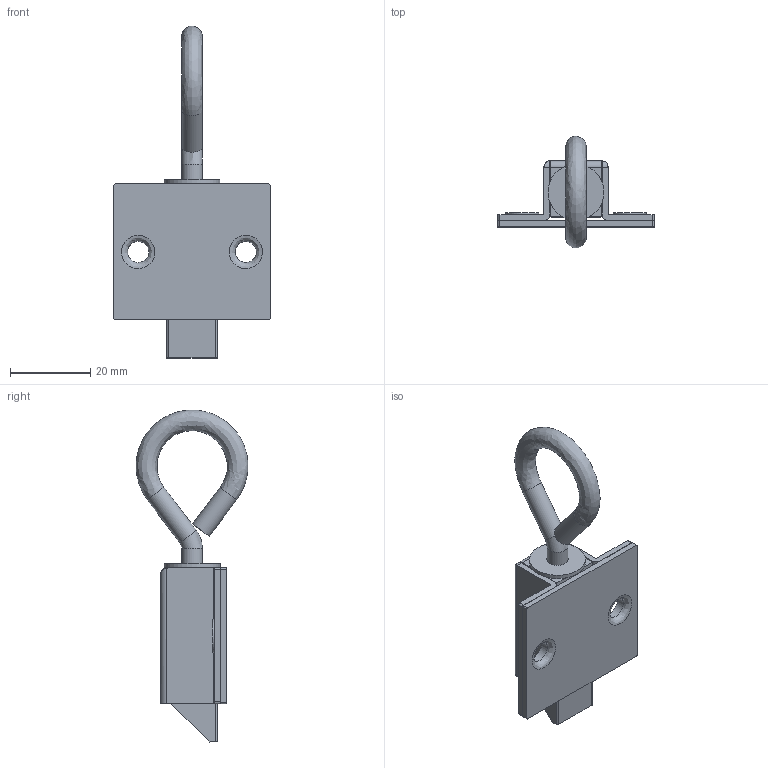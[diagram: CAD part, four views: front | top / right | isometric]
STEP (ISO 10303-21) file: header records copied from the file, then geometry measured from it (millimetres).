
FILE_DESCRIPTION (( 'STEP AP203' ), '1' );
FILE_NAME ('DK634.STEP', '2020-03-09T05:17:32', ( '' ), ( '' ), 'SwSTEP 2.0', 'SolidWorks 2018', '' );
FILE_SCHEMA (( 'CONFIG_CONTROL_DESIGN' ));
Length unit declared in the file: millimetre
Products named in the file (6): D5大垫圈; DK634; 8SJ.DK634.0070坶忔; 8SJ.DK634.0630欶褲; 8SJ.DK634.0020坶梟; 8SJ.DK634.0220菁啣
Assembly tree (5 placements, depth 2):
  DK634
    8SJ.DK634.0630欶褲
    8SJ.DK634.0020坶梟
    D5大垫圈
    8SJ.DK634.0070坶忔
    8SJ.DK634.0220菁啣
Bounding box: 39 x 27.99 x 83 mm (x, y, z)
Volume: 10633.1 mm3; surface area: 11617.1 mm2
Topology: 6 solids, 6 shells, 87 faces, 213 edges, 140 vertices
Faces by surface type: plane 43, cylinder 36, cone 4, bspline 4
Full cylindrical faces by diameter (mm): 5 x1, 5.2 x3, 5.3 x3, 6 x1, 7 x1, 8.3 x2, 8.4 x2, 14 x1
Entity records: 3162 total; most frequent: CARTESIAN_POINT 589, DIRECTION 425, ORIENTED_EDGE 360, EDGE_CURVE 180, AXIS2_PLACEMENT_3D 162, VERTEX_POINT 129, EDGE_LOOP 123, FACE_OUTER_BOUND 105
